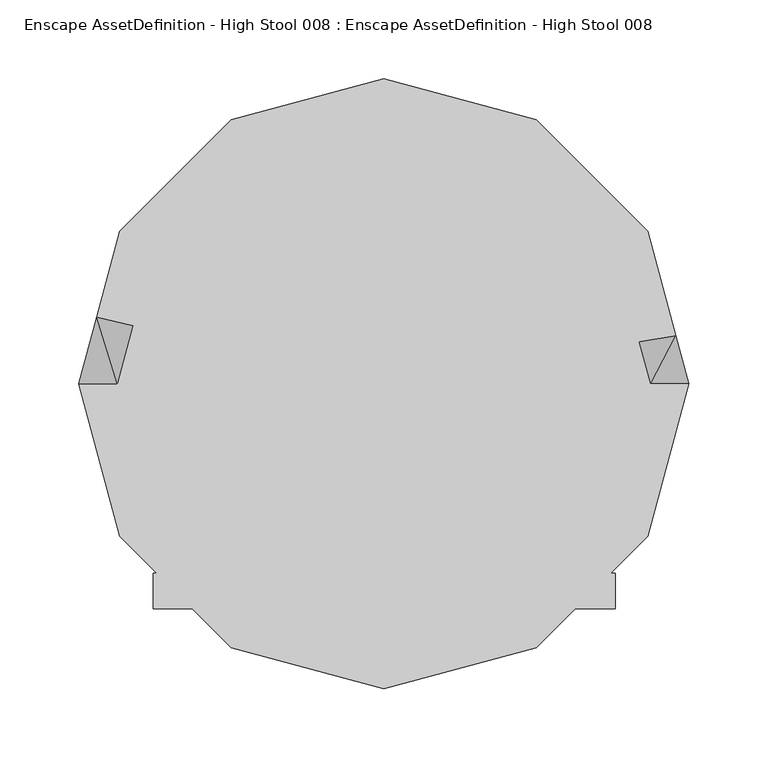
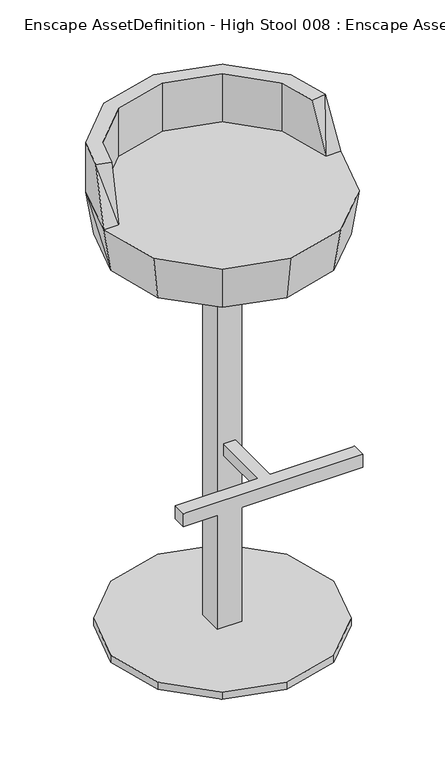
"""IFC4 building model written with IfcOpenShell, lengths in millimetres: geographic element geometry, Enscape AssetDefinition - High Stool 008 : Enscape AssetDefinition - High Stool 008."""

from ifc_helpers import new_model, si_unit, origin, place, context, project, spatial, triangles, source, transform, mapped, element, save


def enscape_assetdefinition_high_stool_008_enscape_0d8ca105(model_context):
    return source(origin(), model_context, "Body", "Tessellation", [
        triangles([(0.0, -181.7997135, 12.3594791), (0.0, -181.7997135, 0.0), (-157.4435512, -90.8998567, 12.3594791), (90.8998567, -157.4435512, 12.3594791), (90.8998567, -157.4435512, 0.0), (-90.8998567, -157.4435512, 0.0), (-90.8998567, -157.4435512, 12.3594791), (-157.4435512, -90.8998567, 0.0), (0.0, 181.7997135, 0.0), (-181.7997135, 0.0, 12.3594791), (-181.7997135, 0.0, 0.0), (-90.8998567, 157.4435512, 0.0), (-157.4435512, 90.8998567, 0.0), (-90.8998567, 157.4435512, 12.3594791), (-157.4435512, 90.8998567, 12.3594791), (0.0, 181.7997135, 12.3594791), (157.4435512, 90.8998567, 12.3594791), (90.8998567, 157.4435512, 12.3594791), (90.8998567, 157.4435512, 0.0), (157.4435512, 90.8998567, 0.0), (157.4435512, -90.8998567, 12.3594791), (157.4435512, -90.8998567, 0.0), (181.7997135, 0.0, 0.0), (181.7997135, 0.0, 12.3594791), (20.0901663, 20.0901663, 12.3594791), (-20.0901663, 20.0901663, 12.3594791), (20.0901663, -20.0901663, 12.3594791), (-20.0901663, -20.0901663, 12.3594791), (-20.0901663, 20.0901663, 684.7369108), (20.0901663, -20.0901663, 684.7369108), (-20.0901663, -20.0901663, 684.7369108), (20.0901663, 20.0901663, 684.7369108), (9.7915217, -20.0073544, 328.115728), (9.7915217, -131.3593875, 328.115728), (-9.7915217, -20.0073544, 308.5326937), (-9.7915217, -20.0073544, 328.115728), (9.7915217, -20.0073544, 308.5326937), (-9.7915217, -131.3593875, 308.5326937), (-9.7915217, -131.3593875, 328.115728), (9.7915217, -131.3593875, 308.5326937), (146.6291131, -119.6947379, 329.5818449), (-146.0092109, -119.6947379, 307.0657411), (146.6291131, -142.2108963, 307.0657411), (-146.0092109, -142.2108963, 329.5826443), (146.6291131, -142.2108963, 329.5818449), (-146.0092109, -142.2108963, 307.0657411), (146.6291131, -119.6947379, 307.0657411), (-146.0092109, -119.6947379, 329.5826443), (157.4435512, -90.8998567, 674.959528), (0.0, 181.7997135, 674.959528), (90.8998567, 157.4435512, 674.959528), (96.5428989, 167.2177184, 746.046032), (-96.5428989, 167.2177184, 746.046032), (0.0, 193.0857978, 746.046032), (157.4435512, 90.8998567, 674.959528), (96.5428989, 167.2177184, 831.4637833), (84.4689266, 146.3041784, 831.4637833), (0.0, 193.0857978, 831.4637833), (84.4689266, 146.3041784, 749.0138741), (0.0, 168.9378532, 831.4637833), (-84.4689266, 146.3041784, 831.4637833), (-168.9378532, 0.0, 749.0138741), (146.3041784, 84.4689266, 749.0138741), (168.9378532, 0.0, 749.0138741), (161.7789515, 26.7174848, 831.4637833), (167.2177184, 96.5428989, 746.046032), (193.0857978, 0.0, 749.0138741), (146.3041784, 84.4689266, 831.4637833), (167.2177184, 96.5428989, 831.4637833), (184.9039753, 30.5362947, 831.4637833), (181.7997135, 0.0, 674.959528), (167.2177184, -96.5428989, 749.0138741), (96.5428989, -167.2177184, 749.0138741), (90.8998567, -157.4435512, 674.959528), (-157.4435512, -90.8998567, 674.959528), (0.0, -181.7997135, 674.959528), (0.0, -193.0857978, 749.0138741), (-90.8998567, -157.4435512, 674.959528), (-96.5428989, -167.2177184, 749.0138741), (-181.7997135, 0.0, 674.959528), (-193.0857978, 0.0, 749.0138741), (-167.2177184, -96.5428989, 749.0138741), (-167.2177184, 96.5428989, 746.046032), (-90.8998567, 157.4435512, 674.959528), (-157.4435512, 90.8998567, 674.959528), (-146.3041784, 84.4689266, 831.4637833), (-159.0666534, 36.8370979, 831.4637833), (-181.8044552, 42.1031441, 831.4637833), (-167.2177184, 96.5428989, 831.4637833), (-96.5428989, 167.2177184, 831.4637833), (-146.3041784, 84.4689266, 749.0138741), (0.0, 168.9378532, 749.0138741), (-84.4689266, 146.3041784, 749.0138741)], [[92, 61, 93], [93, 91, 62], [92, 93, 62], [91, 87, 62], [91, 86, 87], [93, 61, 86], [93, 86, 91], [86, 61, 90], [86, 90, 89], [86, 89, 88], [62, 87, 88], [86, 88, 87], [83, 89, 90], [83, 88, 89], [83, 90, 53], [85, 83, 53], [85, 53, 84], [80, 83, 85], [83, 81, 88], [80, 81, 83], [62, 88, 81], [82, 79, 62], [81, 82, 62], [75, 82, 81], [75, 80, 85], [75, 81, 80], [78, 79, 82], [78, 82, 75], [76, 79, 78], [79, 77, 62], [76, 77, 79], [74, 77, 76], [77, 64, 62], [77, 73, 64], [74, 73, 77], [78, 75, 49], [76, 78, 49], [49, 74, 76], [49, 73, 74], [73, 72, 64], [49, 72, 73], [55, 71, 49], [71, 72, 49], [72, 67, 64], [71, 67, 72], [71, 55, 66], [71, 66, 67], [66, 69, 70], [64, 67, 70], [68, 70, 69], [66, 70, 67], [68, 65, 70], [64, 70, 65], [63, 64, 65], [63, 65, 68], [59, 92, 62], [64, 59, 62], [64, 63, 59], [92, 60, 61], [59, 60, 92], [60, 90, 61], [59, 57, 60], [63, 68, 57], [63, 57, 59], [53, 90, 58], [60, 58, 90], [57, 58, 60], [57, 56, 58], [68, 69, 56], [68, 56, 57], [52, 56, 69], [52, 69, 66], [51, 52, 66], [51, 55, 49], [51, 66, 55], [54, 58, 56], [53, 58, 54], [54, 56, 52], [51, 54, 52], [51, 50, 54], [50, 84, 53], [75, 85, 50], [50, 51, 49], [85, 84, 50], [50, 53, 54], [50, 49, 75], [47, 42, 48], [44, 46, 43], [41, 48, 44], [46, 42, 47], [42, 46, 44], [45, 43, 47], [47, 48, 41], [44, 43, 45], [41, 44, 45], [46, 47, 43], [42, 44, 48], [45, 47, 41], [33, 34, 40], [35, 38, 39], [36, 39, 34], [37, 40, 38], [39, 38, 40], [37, 35, 36], [33, 40, 37], [35, 39, 36], [36, 34, 33], [37, 38, 35], [39, 40, 34], [37, 36, 33], [25, 32, 30], [28, 31, 29], [27, 30, 31], [26, 29, 32], [32, 29, 31], [28, 26, 25], [25, 30, 27], [28, 29, 26], [27, 31, 28], [26, 32, 25], [32, 31, 30], [28, 25, 27], [23, 24, 21], [22, 21, 4], [23, 21, 22], [20, 23, 22], [20, 24, 23], [20, 17, 24], [21, 24, 17], [4, 21, 17], [19, 20, 22], [19, 17, 20], [9, 19, 22], [19, 18, 17], [9, 18, 19], [9, 16, 18], [17, 18, 16], [12, 16, 9], [12, 14, 16], [16, 14, 17], [14, 15, 17], [13, 15, 14], [13, 12, 9], [13, 14, 12], [11, 15, 13], [11, 10, 15], [8, 13, 9], [8, 11, 13], [8, 10, 11], [9, 22, 8], [6, 8, 22], [8, 3, 10], [15, 10, 3], [6, 3, 8], [6, 7, 3], [2, 6, 22], [2, 7, 6], [22, 5, 2], [22, 4, 5], [5, 4, 1], [2, 1, 7], [15, 3, 1], [1, 4, 17], [3, 7, 1], [5, 1, 2], [1, 17, 15]]),
    ])


if __name__ == "__main__":
    model = new_model("IFC4")
    model_context = context("Model", 3, world=origin())
    ifc_project = project(units=[si_unit("LENGTHUNIT", "METRE", prefix="MILLI")], contexts=[model_context])
    site = spatial("IfcSite", under=ifc_project)
    building = spatial("IfcBuilding", under=site)
    placement = place(None, origin())
    enscape_assetdefinition_high_stool_008_enscape_shape = enscape_assetdefinition_high_stool_008_enscape_0d8ca105(model_context)
    element("IfcGeographicElement", 1, ObjectType="Enscape AssetDefinition - High Stool 008 : Enscape AssetDefinition - High Stool 008", at=placement, inside=building, context=model_context, shape_type="MappedRepresentation", body=[
        mapped(enscape_assetdefinition_high_stool_008_enscape_shape, transform((0.0, 0.0, 0.0), x_axis=(1.0, 0.0, 0.0), y_axis=(0.0, 1.0, 0.0), z_axis=(0.0, 0.0, 1.0))),
    ])
    save(model, "model.ifc")
